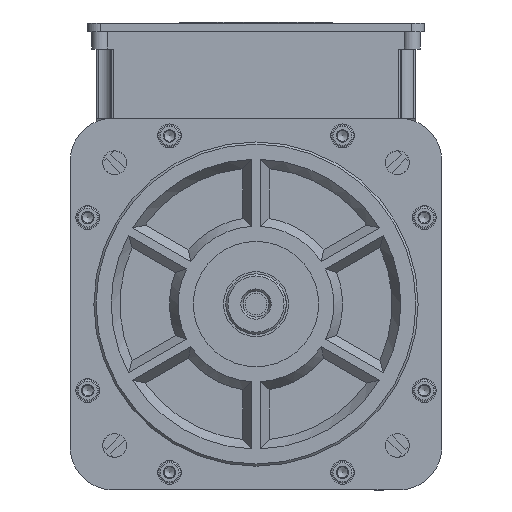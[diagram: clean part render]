
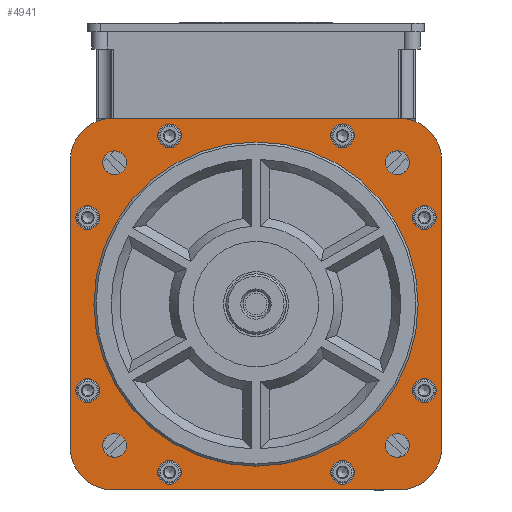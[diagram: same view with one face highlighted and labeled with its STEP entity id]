
A CAD part, front view. The second image highlights one B-rep face of the part: STEP entity #4941.
In plain terms, the highlighted planar face has unit normal (0, -1, 0).
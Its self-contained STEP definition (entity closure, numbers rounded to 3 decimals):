
#3193=FACE_BOUND('',#10667,.T.);
#3194=FACE_BOUND('',#10668,.T.);
#3195=FACE_BOUND('',#10669,.T.);
#3196=FACE_BOUND('',#10670,.T.);
#3197=FACE_BOUND('',#10671,.T.);
#3198=FACE_BOUND('',#10672,.T.);
#3199=FACE_BOUND('',#10673,.T.);
#3200=FACE_BOUND('',#10674,.T.);
#3201=FACE_BOUND('',#10675,.T.);
#3202=FACE_BOUND('',#10676,.T.);
#3203=FACE_BOUND('',#10677,.T.);
#3204=FACE_BOUND('',#10678,.T.);
#3205=FACE_BOUND('',#10679,.T.);
#3206=FACE_BOUND('',#10680,.T.);
#3837=CIRCLE('',#42850,20.);
#3838=CIRCLE('',#42851,20.);
#3839=CIRCLE('',#42852,20.);
#3840=CIRCLE('',#42853,20.);
#3841=CIRCLE('',#42854,5.5);
#3842=CIRCLE('',#42855,5.5);
#3843=CIRCLE('',#42856,5.5);
#3844=CIRCLE('',#42857,5.5);
#3845=CIRCLE('',#42858,5.5);
#3846=CIRCLE('',#42859,5.5);
#3847=CIRCLE('',#42860,5.5);
#3848=CIRCLE('',#42861,5.5);
#3849=CIRCLE('',#42862,5.5);
#3850=CIRCLE('',#42863,5.5);
#3851=CIRCLE('',#42864,5.5);
#3852=CIRCLE('',#42865,5.5);
#3853=CIRCLE('',#42866,75.);
#4941=ADVANCED_FACE('',(#3193,#3194,#3195,#3196,#3197,#3198,#3199,#3200,
#3201,#3202,#3203,#3204,#3205,#3206),#7228,.F.);
#7228=PLANE('',#42867);
#10667=EDGE_LOOP('',(#13595,#13596,#13597,#13598,#13599,#13600,#13601,#13602,
#13603,#13604));
#10668=EDGE_LOOP('',(#13605));
#10669=EDGE_LOOP('',(#13606));
#10670=EDGE_LOOP('',(#13607));
#10671=EDGE_LOOP('',(#13608));
#10672=EDGE_LOOP('',(#13609));
#10673=EDGE_LOOP('',(#13610));
#10674=EDGE_LOOP('',(#13611));
#10675=EDGE_LOOP('',(#13612));
#10676=EDGE_LOOP('',(#13613));
#10677=EDGE_LOOP('',(#13614));
#10678=EDGE_LOOP('',(#13615));
#10679=EDGE_LOOP('',(#13616));
#10680=EDGE_LOOP('',(#13617));
#13595=ORIENTED_EDGE('',*,*,#29841,.T.);
#13596=ORIENTED_EDGE('',*,*,#29842,.T.);
#13597=ORIENTED_EDGE('',*,*,#29843,.F.);
#13598=ORIENTED_EDGE('',*,*,#29844,.F.);
#13599=ORIENTED_EDGE('',*,*,#29845,.T.);
#13600=ORIENTED_EDGE('',*,*,#29846,.F.);
#13601=ORIENTED_EDGE('',*,*,#29847,.T.);
#13602=ORIENTED_EDGE('',*,*,#29848,.T.);
#13603=ORIENTED_EDGE('',*,*,#29849,.T.);
#13604=ORIENTED_EDGE('',*,*,#29850,.T.);
#13605=ORIENTED_EDGE('',*,*,#29851,.T.);
#13606=ORIENTED_EDGE('',*,*,#29852,.F.);
#13607=ORIENTED_EDGE('',*,*,#29853,.F.);
#13608=ORIENTED_EDGE('',*,*,#29854,.T.);
#13609=ORIENTED_EDGE('',*,*,#29855,.T.);
#13610=ORIENTED_EDGE('',*,*,#29856,.T.);
#13611=ORIENTED_EDGE('',*,*,#29857,.F.);
#13612=ORIENTED_EDGE('',*,*,#29858,.T.);
#13613=ORIENTED_EDGE('',*,*,#29859,.T.);
#13614=ORIENTED_EDGE('',*,*,#29860,.T.);
#13615=ORIENTED_EDGE('',*,*,#29861,.T.);
#13616=ORIENTED_EDGE('',*,*,#29862,.T.);
#13617=ORIENTED_EDGE('',*,*,#29863,.F.);
#25755=VERTEX_POINT('',#55641);
#25756=VERTEX_POINT('',#55642);
#25757=VERTEX_POINT('',#55644);
#25758=VERTEX_POINT('',#55646);
#25759=VERTEX_POINT('',#55648);
#25760=VERTEX_POINT('',#55650);
#25761=VERTEX_POINT('',#55652);
#25762=VERTEX_POINT('',#55654);
#25763=VERTEX_POINT('',#55656);
#25764=VERTEX_POINT('',#55658);
#25765=VERTEX_POINT('',#55661);
#25766=VERTEX_POINT('',#55663);
#25767=VERTEX_POINT('',#55665);
#25768=VERTEX_POINT('',#55667);
#25769=VERTEX_POINT('',#55669);
#25770=VERTEX_POINT('',#55671);
#25771=VERTEX_POINT('',#55673);
#25772=VERTEX_POINT('',#55675);
#25773=VERTEX_POINT('',#55677);
#25774=VERTEX_POINT('',#55679);
#25775=VERTEX_POINT('',#55681);
#25776=VERTEX_POINT('',#55683);
#25777=VERTEX_POINT('',#55685);
#29841=EDGE_CURVE('',#25755,#25756,#35875,.T.);
#29842=EDGE_CURVE('',#25756,#25757,#3837,.T.);
#29843=EDGE_CURVE('',#25758,#25757,#35876,.T.);
#29844=EDGE_CURVE('',#25759,#25758,#35877,.T.);
#29845=EDGE_CURVE('',#25759,#25760,#3838,.T.);
#29846=EDGE_CURVE('',#25761,#25760,#35878,.T.);
#29847=EDGE_CURVE('',#25761,#25762,#3839,.T.);
#29848=EDGE_CURVE('',#25762,#25763,#35879,.T.);
#29849=EDGE_CURVE('',#25763,#25764,#35880,.T.);
#29850=EDGE_CURVE('',#25764,#25755,#3840,.T.);
#29851=EDGE_CURVE('',#25765,#25765,#3841,.T.);
#29852=EDGE_CURVE('',#25766,#25766,#3842,.T.);
#29853=EDGE_CURVE('',#25767,#25767,#3843,.T.);
#29854=EDGE_CURVE('',#25768,#25768,#3844,.T.);
#29855=EDGE_CURVE('',#25769,#25769,#3845,.T.);
#29856=EDGE_CURVE('',#25770,#25770,#3846,.T.);
#29857=EDGE_CURVE('',#25771,#25771,#3847,.T.);
#29858=EDGE_CURVE('',#25772,#25772,#3848,.T.);
#29859=EDGE_CURVE('',#25773,#25773,#3849,.T.);
#29860=EDGE_CURVE('',#25774,#25774,#3850,.T.);
#29861=EDGE_CURVE('',#25775,#25775,#3851,.T.);
#29862=EDGE_CURVE('',#25776,#25776,#3852,.T.);
#29863=EDGE_CURVE('',#25777,#25777,#3853,.T.);
#35875=LINE('',#55640,#39197);
#35876=LINE('',#55645,#39198);
#35877=LINE('',#55647,#39199);
#35878=LINE('',#55651,#39200);
#35879=LINE('',#55655,#39201);
#35880=LINE('',#55657,#39202);
#39197=VECTOR('',#45983,1.);
#39198=VECTOR('',#45986,1.);
#39199=VECTOR('',#45987,1.);
#39200=VECTOR('',#45990,1.);
#39201=VECTOR('',#45993,1.);
#39202=VECTOR('',#45994,1.);
#42850=AXIS2_PLACEMENT_3D('',#55643,#45984,#45985);
#42851=AXIS2_PLACEMENT_3D('',#55649,#45988,#45989);
#42852=AXIS2_PLACEMENT_3D('',#55653,#45991,#45992);
#42853=AXIS2_PLACEMENT_3D('',#55659,#45995,#45996);
#42854=AXIS2_PLACEMENT_3D('',#55660,#45997,#45998);
#42855=AXIS2_PLACEMENT_3D('',#55662,#45999,#46000);
#42856=AXIS2_PLACEMENT_3D('',#55664,#46001,#46002);
#42857=AXIS2_PLACEMENT_3D('',#55666,#46003,#46004);
#42858=AXIS2_PLACEMENT_3D('',#55668,#46005,#46006);
#42859=AXIS2_PLACEMENT_3D('',#55670,#46007,#46008);
#42860=AXIS2_PLACEMENT_3D('',#55672,#46009,#46010);
#42861=AXIS2_PLACEMENT_3D('',#55674,#46011,#46012);
#42862=AXIS2_PLACEMENT_3D('',#55676,#46013,#46014);
#42863=AXIS2_PLACEMENT_3D('',#55678,#46015,#46016);
#42864=AXIS2_PLACEMENT_3D('',#55680,#46017,#46018);
#42865=AXIS2_PLACEMENT_3D('',#55682,#46019,#46020);
#42866=AXIS2_PLACEMENT_3D('',#55684,#46021,#46022);
#42867=AXIS2_PLACEMENT_3D('',#55686,#46023,#46024);
#45983=DIRECTION('',(0.,0.,-1.));
#45984=DIRECTION('',(0.,-1.,0.));
#45985=DIRECTION('',(0.,0.,-1.));
#45986=DIRECTION('',(-1.,0.,0.));
#45987=DIRECTION('',(-1.,0.,0.));
#45988=DIRECTION('',(0.,-1.,0.));
#45989=DIRECTION('',(0.,0.,-1.));
#45990=DIRECTION('',(0.,0.,-1.));
#45991=DIRECTION('',(0.,-1.,0.));
#45992=DIRECTION('',(0.,0.,-1.));
#45993=DIRECTION('',(-1.,0.,0.));
#45994=DIRECTION('',(-1.,0.,0.));
#45995=DIRECTION('',(0.,-1.,0.));
#45996=DIRECTION('',(0.,0.,-1.));
#45997=DIRECTION('',(0.,1.,0.));
#45998=DIRECTION('',(0.,0.,-1.));
#45999=DIRECTION('',(0.,-1.,0.));
#46000=DIRECTION('',(0.,0.,-1.));
#46001=DIRECTION('',(0.,-1.,0.));
#46002=DIRECTION('',(0.,0.,-1.));
#46003=DIRECTION('',(0.,1.,0.));
#46004=DIRECTION('',(0.,0.,-1.));
#46005=DIRECTION('',(0.,1.,0.));
#46006=DIRECTION('',(0.,0.,-1.));
#46007=DIRECTION('',(0.,1.,0.));
#46008=DIRECTION('',(0.,0.,-1.));
#46009=DIRECTION('',(0.,-1.,0.));
#46010=DIRECTION('',(0.,0.,-1.));
#46011=DIRECTION('',(0.,1.,0.));
#46012=DIRECTION('',(0.,0.,-1.));
#46013=DIRECTION('',(0.,1.,0.));
#46014=DIRECTION('',(-0.707,0.,0.707));
#46015=DIRECTION('',(0.,1.,0.));
#46016=DIRECTION('',(-0.707,0.,-0.707));
#46017=DIRECTION('',(0.,1.,0.));
#46018=DIRECTION('',(0.707,0.,0.707));
#46019=DIRECTION('',(0.,1.,0.));
#46020=DIRECTION('',(0.707,0.,-0.707));
#46021=DIRECTION('',(0.,-1.,0.));
#46022=DIRECTION('',(0.,0.,-1.));
#46023=DIRECTION('',(0.,1.,0.));
#46024=DIRECTION('',(0.,0.,-1.));
#55640=CARTESIAN_POINT('',(-99.291,58.45,89.85));
#55641=CARTESIAN_POINT('',(-99.291,58.45,156.));
#55642=CARTESIAN_POINT('',(-99.291,58.45,24.));
#55643=CARTESIAN_POINT('',(-79.291,58.45,24.));
#55644=CARTESIAN_POINT('',(-79.291,58.45,4.));
#55645=CARTESIAN_POINT('',(-13.141,58.45,4.));
#55646=CARTESIAN_POINT('',(51.496,58.45,4.));
#55647=CARTESIAN_POINT('',(-13.141,58.45,4.));
#55648=CARTESIAN_POINT('',(52.709,58.45,4.));
#55649=CARTESIAN_POINT('',(52.709,58.45,24.));
#55650=CARTESIAN_POINT('',(72.709,58.45,24.));
#55651=CARTESIAN_POINT('',(72.709,58.45,90.));
#55652=CARTESIAN_POINT('',(72.709,58.45,156.));
#55653=CARTESIAN_POINT('',(52.709,58.45,156.));
#55654=CARTESIAN_POINT('',(52.709,58.45,176.));
#55655=CARTESIAN_POINT('',(-13.441,58.45,176.));
#55656=CARTESIAN_POINT('',(-72.291,58.45,176.));
#55657=CARTESIAN_POINT('',(-13.441,58.45,176.));
#55658=CARTESIAN_POINT('',(-79.291,58.45,176.));
#55659=CARTESIAN_POINT('',(-79.291,58.45,156.));
#55660=CARTESIAN_POINT('',(64.531,58.45,50.));
#55661=CARTESIAN_POINT('',(64.531,58.45,44.5));
#55662=CARTESIAN_POINT('',(64.531,58.45,130.));
#55663=CARTESIAN_POINT('',(64.531,58.45,124.5));
#55664=CARTESIAN_POINT('',(26.709,58.45,12.178));
#55665=CARTESIAN_POINT('',(26.709,58.45,6.678));
#55666=CARTESIAN_POINT('',(26.709,58.45,167.822));
#55667=CARTESIAN_POINT('',(26.709,58.45,162.322));
#55668=CARTESIAN_POINT('',(-53.291,58.45,12.178));
#55669=CARTESIAN_POINT('',(-53.291,58.45,6.678));
#55670=CARTESIAN_POINT('',(-53.291,58.45,167.822));
#55671=CARTESIAN_POINT('',(-53.291,58.45,162.322));
#55672=CARTESIAN_POINT('',(-91.112,58.45,50.));
#55673=CARTESIAN_POINT('',(-91.112,58.45,44.5));
#55674=CARTESIAN_POINT('',(-91.112,58.45,130.));
#55675=CARTESIAN_POINT('',(-91.112,58.45,124.5));
#55676=CARTESIAN_POINT('',(52.117,58.45,24.593));
#55677=CARTESIAN_POINT('',(48.228,58.45,28.482));
#55678=CARTESIAN_POINT('',(52.117,58.45,155.407));
#55679=CARTESIAN_POINT('',(48.228,58.45,151.518));
#55680=CARTESIAN_POINT('',(-78.698,58.45,24.593));
#55681=CARTESIAN_POINT('',(-74.809,58.45,28.482));
#55682=CARTESIAN_POINT('',(-78.698,58.45,155.407));
#55683=CARTESIAN_POINT('',(-74.809,58.45,151.518));
#55684=CARTESIAN_POINT('',(-13.291,58.45,90.));
#55685=CARTESIAN_POINT('',(-13.291,58.45,15.));
#55686=CARTESIAN_POINT('',(-13.291,58.45,90.));
